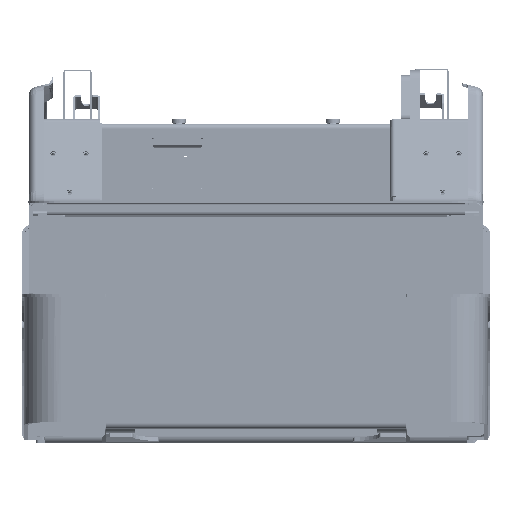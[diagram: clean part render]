
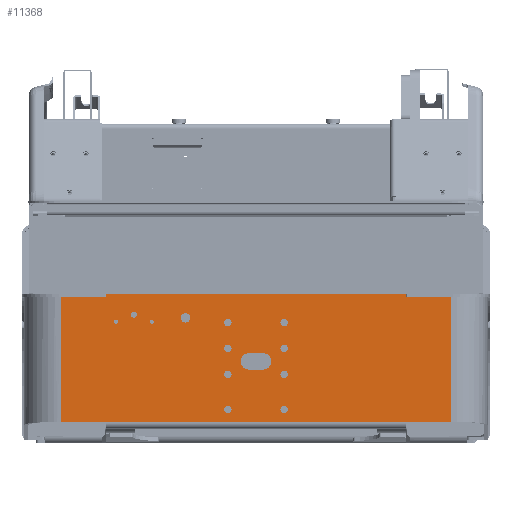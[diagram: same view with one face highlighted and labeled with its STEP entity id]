
A CAD part, left-side view. The second image highlights one B-rep face of the part: STEP entity #11368.
In plain terms, the highlighted planar face has unit normal (-1, 0, 0).
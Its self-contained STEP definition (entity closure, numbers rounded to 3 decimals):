
#5111=FACE_BOUND('',#26617,.T.);
#5112=FACE_BOUND('',#26618,.T.);
#5113=FACE_BOUND('',#26619,.T.);
#5114=FACE_BOUND('',#26620,.T.);
#5115=FACE_BOUND('',#26621,.T.);
#5116=FACE_BOUND('',#26622,.T.);
#5117=FACE_BOUND('',#26623,.T.);
#5118=FACE_BOUND('',#26624,.T.);
#5119=FACE_BOUND('',#26625,.T.);
#5120=FACE_BOUND('',#26626,.T.);
#5121=FACE_BOUND('',#26627,.T.);
#5122=FACE_BOUND('',#26628,.T.);
#5123=FACE_BOUND('',#26629,.T.);
#5124=FACE_BOUND('',#26630,.T.);
#11368=ADVANCED_FACE('',(#5111,#5112,#5113,#5114,#5115,#5116,#5117,#5118,
#5119,#5120,#5121,#5122,#5123,#5124),#17660,.F.);
#17660=PLANE('',#116632);
#26617=EDGE_LOOP('',(#36023));
#26618=EDGE_LOOP('',(#36024,#36025,#36026,#36027));
#26619=EDGE_LOOP('',(#36028));
#26620=EDGE_LOOP('',(#36029));
#26621=EDGE_LOOP('',(#36030));
#26622=EDGE_LOOP('',(#36031));
#26623=EDGE_LOOP('',(#36032));
#26624=EDGE_LOOP('',(#36033));
#26625=EDGE_LOOP('',(#36034));
#26626=EDGE_LOOP('',(#36035));
#26627=EDGE_LOOP('',(#36036));
#26628=EDGE_LOOP('',(#36037,#36038,#36039,#36040,#36041,#36042,#36043,#36044,
#36045,#36046,#36047,#36048));
#26629=EDGE_LOOP('',(#36049));
#26630=EDGE_LOOP('',(#36050));
#36023=ORIENTED_EDGE('',*,*,#76599,.F.);
#36024=ORIENTED_EDGE('',*,*,#76600,.F.);
#36025=ORIENTED_EDGE('',*,*,#76601,.F.);
#36026=ORIENTED_EDGE('',*,*,#76602,.F.);
#36027=ORIENTED_EDGE('',*,*,#76603,.F.);
#36028=ORIENTED_EDGE('',*,*,#76604,.T.);
#36029=ORIENTED_EDGE('',*,*,#76605,.T.);
#36030=ORIENTED_EDGE('',*,*,#76606,.T.);
#36031=ORIENTED_EDGE('',*,*,#76607,.F.);
#36032=ORIENTED_EDGE('',*,*,#76608,.T.);
#36033=ORIENTED_EDGE('',*,*,#76609,.T.);
#36034=ORIENTED_EDGE('',*,*,#76610,.T.);
#36035=ORIENTED_EDGE('',*,*,#76611,.T.);
#36036=ORIENTED_EDGE('',*,*,#76612,.F.);
#36037=ORIENTED_EDGE('',*,*,#76613,.F.);
#36038=ORIENTED_EDGE('',*,*,#76614,.T.);
#36039=ORIENTED_EDGE('',*,*,#76615,.F.);
#36040=ORIENTED_EDGE('',*,*,#76616,.T.);
#36041=ORIENTED_EDGE('',*,*,#76591,.F.);
#36042=ORIENTED_EDGE('',*,*,#76617,.T.);
#36043=ORIENTED_EDGE('',*,*,#76618,.F.);
#36044=ORIENTED_EDGE('',*,*,#76619,.F.);
#36045=ORIENTED_EDGE('',*,*,#76585,.F.);
#36046=ORIENTED_EDGE('',*,*,#76620,.T.);
#36047=ORIENTED_EDGE('',*,*,#76621,.F.);
#36048=ORIENTED_EDGE('',*,*,#76622,.T.);
#36049=ORIENTED_EDGE('',*,*,#76623,.F.);
#36050=ORIENTED_EDGE('',*,*,#76624,.F.);
#65856=VERTEX_POINT('',#159480);
#65857=VERTEX_POINT('',#159482);
#65862=VERTEX_POINT('',#159494);
#65863=VERTEX_POINT('',#159495);
#65870=VERTEX_POINT('',#159511);
#65871=VERTEX_POINT('',#159513);
#65872=VERTEX_POINT('',#159514);
#65873=VERTEX_POINT('',#159516);
#65874=VERTEX_POINT('',#159518);
#65875=VERTEX_POINT('',#159521);
#65876=VERTEX_POINT('',#159523);
#65877=VERTEX_POINT('',#159525);
#65878=VERTEX_POINT('',#159527);
#65879=VERTEX_POINT('',#159529);
#65880=VERTEX_POINT('',#159531);
#65881=VERTEX_POINT('',#159533);
#65882=VERTEX_POINT('',#159535);
#65883=VERTEX_POINT('',#159537);
#65884=VERTEX_POINT('',#159539);
#65885=VERTEX_POINT('',#159540);
#65886=VERTEX_POINT('',#159542);
#65887=VERTEX_POINT('',#159544);
#65888=VERTEX_POINT('',#159547);
#65889=VERTEX_POINT('',#159549);
#65890=VERTEX_POINT('',#159552);
#65891=VERTEX_POINT('',#159554);
#65892=VERTEX_POINT('',#159557);
#65893=VERTEX_POINT('',#159559);
#76585=EDGE_CURVE('',#65856,#65857,#99429,.T.);
#76591=EDGE_CURVE('',#65862,#65863,#99433,.T.);
#76599=EDGE_CURVE('',#65870,#65870,#91615,.T.);
#76600=EDGE_CURVE('',#65871,#65872,#91616,.T.);
#76601=EDGE_CURVE('',#65873,#65871,#99439,.T.);
#76602=EDGE_CURVE('',#65874,#65873,#91617,.T.);
#76603=EDGE_CURVE('',#65872,#65874,#99440,.T.);
#76604=EDGE_CURVE('',#65875,#65875,#91618,.T.);
#76605=EDGE_CURVE('',#65876,#65876,#91619,.T.);
#76606=EDGE_CURVE('',#65877,#65877,#91620,.T.);
#76607=EDGE_CURVE('',#65878,#65878,#91621,.T.);
#76608=EDGE_CURVE('',#65879,#65879,#91622,.T.);
#76609=EDGE_CURVE('',#65880,#65880,#91623,.T.);
#76610=EDGE_CURVE('',#65881,#65881,#91624,.T.);
#76611=EDGE_CURVE('',#65882,#65882,#91625,.T.);
#76612=EDGE_CURVE('',#65883,#65883,#91626,.T.);
#76613=EDGE_CURVE('',#65884,#65885,#99441,.T.);
#76614=EDGE_CURVE('',#65884,#65886,#91627,.T.);
#76615=EDGE_CURVE('',#65887,#65886,#99442,.T.);
#76616=EDGE_CURVE('',#65887,#65863,#91628,.T.);
#76617=EDGE_CURVE('',#65862,#65888,#99443,.T.);
#76618=EDGE_CURVE('',#65889,#65888,#99444,.T.);
#76619=EDGE_CURVE('',#65857,#65889,#99445,.T.);
#76620=EDGE_CURVE('',#65856,#65890,#91629,.T.);
#76621=EDGE_CURVE('',#65891,#65890,#99446,.T.);
#76622=EDGE_CURVE('',#65891,#65885,#91630,.T.);
#76623=EDGE_CURVE('',#65892,#65892,#91631,.T.);
#76624=EDGE_CURVE('',#65893,#65893,#91632,.T.);
#91615=CIRCLE('',#116614,10.);
#91616=CIRCLE('',#116615,17.5);
#91617=CIRCLE('',#116616,17.5);
#91618=CIRCLE('',#116617,6.5);
#91619=CIRCLE('',#116618,4.5);
#91620=CIRCLE('',#116619,4.5);
#91621=CIRCLE('',#116620,8.);
#91622=CIRCLE('',#116621,8.);
#91623=CIRCLE('',#116622,8.);
#91624=CIRCLE('',#116623,8.);
#91625=CIRCLE('',#116624,8.);
#91626=CIRCLE('',#116625,8.);
#91627=CIRCLE('',#116626,1.);
#91628=CIRCLE('',#116627,1.);
#91629=CIRCLE('',#116628,1.);
#91630=CIRCLE('',#116629,1.);
#91631=CIRCLE('',#116630,8.);
#91632=CIRCLE('',#116631,8.);
#99429=LINE('',#159481,#108043);
#99433=LINE('',#159493,#108047);
#99439=LINE('',#159515,#108053);
#99440=LINE('',#159519,#108054);
#99441=LINE('',#159538,#108055);
#99442=LINE('',#159543,#108056);
#99443=LINE('',#159546,#108057);
#99444=LINE('',#159548,#108058);
#99445=LINE('',#159550,#108059);
#99446=LINE('',#159553,#108060);
#108043=VECTOR('',#129008,1.);
#108047=VECTOR('',#129018,1.);
#108053=VECTOR('',#129034,1.);
#108054=VECTOR('',#129037,1.);
#108055=VECTOR('',#129056,1.);
#108056=VECTOR('',#129059,1.);
#108057=VECTOR('',#129062,1.);
#108058=VECTOR('',#129063,1.);
#108059=VECTOR('',#129064,1.);
#108060=VECTOR('',#129067,1.);
#116614=AXIS2_PLACEMENT_3D('',#159510,#129030,#129031);
#116615=AXIS2_PLACEMENT_3D('',#159512,#129032,#129033);
#116616=AXIS2_PLACEMENT_3D('',#159517,#129035,#129036);
#116617=AXIS2_PLACEMENT_3D('',#159520,#129038,#129039);
#116618=AXIS2_PLACEMENT_3D('',#159522,#129040,#129041);
#116619=AXIS2_PLACEMENT_3D('',#159524,#129042,#129043);
#116620=AXIS2_PLACEMENT_3D('',#159526,#129044,#129045);
#116621=AXIS2_PLACEMENT_3D('',#159528,#129046,#129047);
#116622=AXIS2_PLACEMENT_3D('',#159530,#129048,#129049);
#116623=AXIS2_PLACEMENT_3D('',#159532,#129050,#129051);
#116624=AXIS2_PLACEMENT_3D('',#159534,#129052,#129053);
#116625=AXIS2_PLACEMENT_3D('',#159536,#129054,#129055);
#116626=AXIS2_PLACEMENT_3D('',#159541,#129057,#129058);
#116627=AXIS2_PLACEMENT_3D('',#159545,#129060,#129061);
#116628=AXIS2_PLACEMENT_3D('',#159551,#129065,#129066);
#116629=AXIS2_PLACEMENT_3D('',#159555,#129068,#129069);
#116630=AXIS2_PLACEMENT_3D('',#159556,#129070,#129071);
#116631=AXIS2_PLACEMENT_3D('',#159558,#129072,#129073);
#116632=AXIS2_PLACEMENT_3D('',#159560,#129074,#129075);
#129008=DIRECTION('',(0.,-1.,0.));
#129018=DIRECTION('',(0.,-1.,0.));
#129030=DIRECTION('',(-1.,0.,0.));
#129031=DIRECTION('',(0.,-1.,0.));
#129032=DIRECTION('',(-1.,0.,0.));
#129033=DIRECTION('',(0.,-1.,0.));
#129034=DIRECTION('',(0.,-1.,0.));
#129035=DIRECTION('',(-1.,0.,0.));
#129036=DIRECTION('',(0.,-1.,0.));
#129037=DIRECTION('',(0.,1.,0.));
#129038=DIRECTION('',(1.,0.,0.));
#129039=DIRECTION('',(0.,0.,-1.));
#129040=DIRECTION('',(1.,0.,0.));
#129041=DIRECTION('',(0.,0.,-1.));
#129042=DIRECTION('',(1.,0.,0.));
#129043=DIRECTION('',(0.,0.,-1.));
#129044=DIRECTION('',(-1.,0.,0.));
#129045=DIRECTION('',(0.,0.,-1.));
#129046=DIRECTION('',(1.,0.,0.));
#129047=DIRECTION('',(0.,0.,-1.));
#129048=DIRECTION('',(1.,0.,0.));
#129049=DIRECTION('',(0.,0.,-1.));
#129050=DIRECTION('',(1.,0.,0.));
#129051=DIRECTION('',(0.,0.,-1.));
#129052=DIRECTION('',(1.,0.,0.));
#129053=DIRECTION('',(0.,0.,-1.));
#129054=DIRECTION('',(-1.,0.,0.));
#129055=DIRECTION('',(0.,0.,-1.));
#129056=DIRECTION('',(0.,-1.,0.));
#129057=DIRECTION('',(-1.,0.,0.));
#129058=DIRECTION('',(0.,0.,-1.));
#129059=DIRECTION('',(0.,0.,1.));
#129060=DIRECTION('',(1.,0.,0.));
#129061=DIRECTION('',(0.,0.,-1.));
#129062=DIRECTION('',(0.,0.,-1.));
#129063=DIRECTION('',(0.,1.,0.));
#129064=DIRECTION('',(0.,0.,-1.));
#129065=DIRECTION('',(1.,0.,0.));
#129066=DIRECTION('',(0.,0.,-1.));
#129067=DIRECTION('',(0.,0.,-1.));
#129068=DIRECTION('',(-1.,0.,0.));
#129069=DIRECTION('',(0.,0.,-1.));
#129070=DIRECTION('',(-1.,0.,0.));
#129071=DIRECTION('',(0.,0.,-1.));
#129072=DIRECTION('',(-1.,0.,0.));
#129073=DIRECTION('',(0.,0.,-1.));
#129074=DIRECTION('',(1.,0.,0.));
#129075=DIRECTION('',(0.,0.,-1.));
#159480=CARTESIAN_POINT('',(-2555.,-320.,255.));
#159481=CARTESIAN_POINT('',(-2555.,415.,255.));
#159482=CARTESIAN_POINT('',(-2555.,-415.,255.));
#159493=CARTESIAN_POINT('',(-2555.,415.,255.));
#159494=CARTESIAN_POINT('',(-2555.,415.,255.));
#159495=CARTESIAN_POINT('',(-2555.,320.,255.));
#159510=CARTESIAN_POINT('',(-2555.,150.,211.));
#159511=CARTESIAN_POINT('',(-2555.,140.,211.));
#159512=CARTESIAN_POINT('',(-2555.,-15.,118.5));
#159513=CARTESIAN_POINT('',(-2555.,-15.,101.));
#159514=CARTESIAN_POINT('',(-2555.,-15.,136.));
#159515=CARTESIAN_POINT('',(-2555.,15.,101.));
#159516=CARTESIAN_POINT('',(-2555.,15.,101.));
#159517=CARTESIAN_POINT('',(-2555.,15.,118.5));
#159518=CARTESIAN_POINT('',(-2555.,15.,136.));
#159519=CARTESIAN_POINT('',(-2555.,-15.,136.));
#159520=CARTESIAN_POINT('',(-2555.,260.,218.));
#159521=CARTESIAN_POINT('',(-2555.,260.,211.5));
#159522=CARTESIAN_POINT('',(-2555.,222.,203.));
#159523=CARTESIAN_POINT('',(-2555.,222.,198.5));
#159524=CARTESIAN_POINT('',(-2555.,298.,203.));
#159525=CARTESIAN_POINT('',(-2555.,298.,198.5));
#159526=CARTESIAN_POINT('',(-2555.,60.,91.));
#159527=CARTESIAN_POINT('',(-2555.,60.,83.));
#159528=CARTESIAN_POINT('',(-2555.,-60.,16.));
#159529=CARTESIAN_POINT('',(-2555.,-60.,8.));
#159530=CARTESIAN_POINT('',(-2555.,-60.,91.));
#159531=CARTESIAN_POINT('',(-2555.,-60.,83.));
#159532=CARTESIAN_POINT('',(-2555.,-60.,146.));
#159533=CARTESIAN_POINT('',(-2555.,-60.,138.));
#159534=CARTESIAN_POINT('',(-2555.,-60.,201.));
#159535=CARTESIAN_POINT('',(-2555.,-60.,193.));
#159536=CARTESIAN_POINT('',(-2555.,60.,146.));
#159537=CARTESIAN_POINT('',(-2555.,60.,138.));
#159538=CARTESIAN_POINT('',(-2555.,319.,261.));
#159539=CARTESIAN_POINT('',(-2555.,318.,261.));
#159540=CARTESIAN_POINT('',(-2555.,-318.,261.));
#159541=CARTESIAN_POINT('',(-2555.,318.,260.));
#159542=CARTESIAN_POINT('',(-2555.,319.,260.));
#159543=CARTESIAN_POINT('',(-2555.,319.,255.));
#159544=CARTESIAN_POINT('',(-2555.,319.,256.));
#159545=CARTESIAN_POINT('',(-2555.,320.,256.));
#159546=CARTESIAN_POINT('',(-2555.,415.,255.));
#159547=CARTESIAN_POINT('',(-2555.,415.,-10.));
#159548=CARTESIAN_POINT('',(-2555.,415.,-10.));
#159549=CARTESIAN_POINT('',(-2555.,-415.,-10.));
#159550=CARTESIAN_POINT('',(-2555.,-415.,255.));
#159551=CARTESIAN_POINT('',(-2555.,-320.,256.));
#159552=CARTESIAN_POINT('',(-2555.,-319.,256.));
#159553=CARTESIAN_POINT('',(-2555.,-319.,261.));
#159554=CARTESIAN_POINT('',(-2555.,-319.,260.));
#159555=CARTESIAN_POINT('',(-2555.,-318.,260.));
#159556=CARTESIAN_POINT('',(-2555.,60.,16.));
#159557=CARTESIAN_POINT('',(-2555.,60.,8.));
#159558=CARTESIAN_POINT('',(-2555.,60.,201.));
#159559=CARTESIAN_POINT('',(-2555.,60.,193.));
#159560=CARTESIAN_POINT('',(-2555.,415.,255.));
